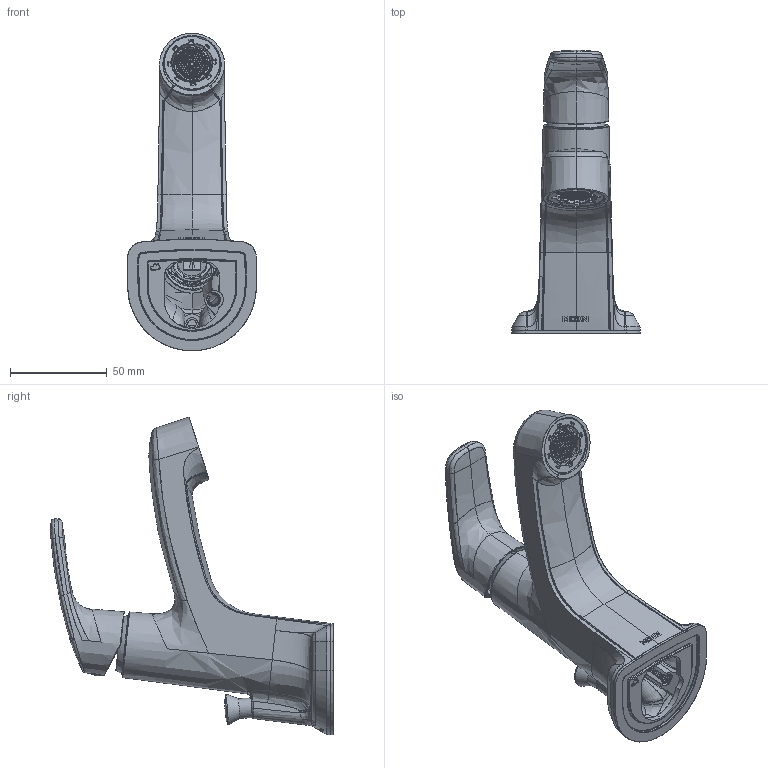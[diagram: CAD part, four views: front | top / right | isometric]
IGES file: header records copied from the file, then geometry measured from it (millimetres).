
Start section: SolidWorks IGES file using analytic representation for surfaces
Global section: file name: C:\Users\tzhang10\Desktop\sku_L45711series_igs.IGS; native system: SolidWorks 2023; preprocessor: SolidWorks 2023; author: tzhang10; date: 250624.113937; units: inch
Bounding box: 66.46 x 145.97 x 163.94 mm (x, y, z)
Surface area: 56619.2 mm2 (no closed solid volume)
Topology: 0 solids, 0 shells, 1466 faces, 14648 edges, 14632 vertices
Faces by surface type: bspline 973, revolution 493
